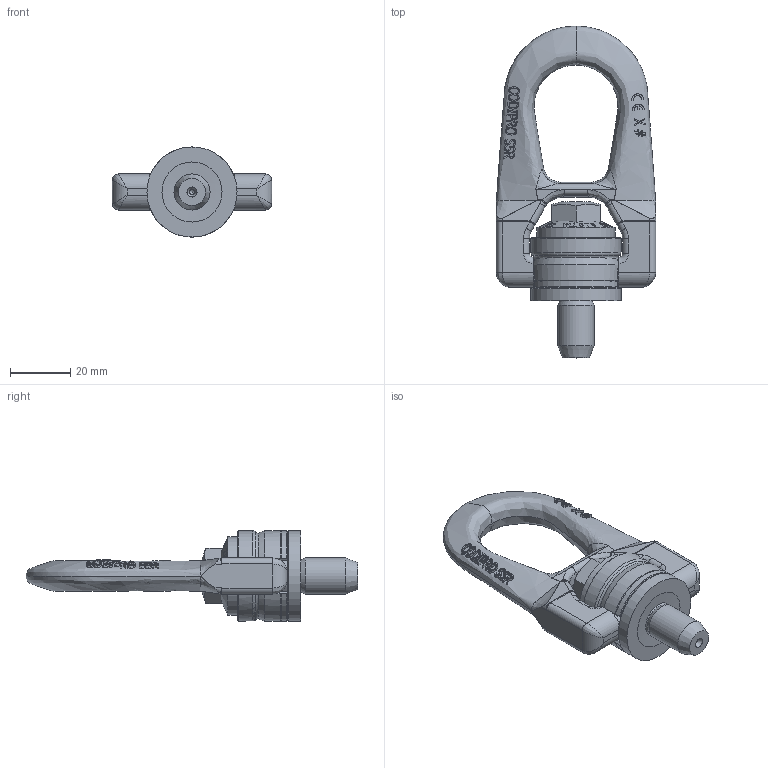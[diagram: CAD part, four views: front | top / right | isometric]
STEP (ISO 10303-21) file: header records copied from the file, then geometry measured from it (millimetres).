
FILE_DESCRIPTION(/* description */ (''),/* implementation_level */ '2;1');
FILE_NAME(/* name */ 'W:\CODIPRO\DOCUMENTS\Plans A NE PAS DIFFUSER !!!\Fichiers STEP\Gamme 2018\Produits NON GRADUP\SS DSR\SS DSR M12.stp',/* time_stamp */ '2017-09-26T13:05:57+02:00',/* author */ ('rklenes'),/* organization */ (''),/* preprocessor_version */ 'ST-DEVELOPER v16.5',/* originating_system */ 'Autodesk Inventor 2017',/* authorisation */ '');
FILE_SCHEMA (('AUTOMOTIVE_DESIGN { 1 0 10303 214 3 1 1 }'));
Products named in the file (5): SS DSR M12; SSM_AF1B-1; SSB_B1B; DRA_M12X42; DRE_D1M12A
Assembly tree (4 placements, depth 2):
  SS DSR M12
    SSM_AF1B-1
    SSB_B1B
    DRA_M12X42
    DRE_D1M12A
Bounding box: 53 x 110.5 x 30 mm (x, y, z)
Volume: 40054.1 mm3; surface area: 18264.9 mm2
Topology: 4 solids, 4 shells, 715 faces, 1884 edges, 1209 vertices
Faces by surface type: plane 312, bspline 258, cylinder 82, cone 43, torus 19, sphere 1
Full cylindrical faces by diameter (mm): 1.6 x1, 10 x2, 12 x3, 12.2 x1, 14.7 x2, 15 x2, 22 x1, 26 x1, 30 x2
Entity records: 40558 total; most frequent: CARTESIAN_POINT 25054, ORIENTED_EDGE 3664, DIRECTION 2394, EDGE_CURVE 1832, VERTEX_POINT 1200, AXIS2_PLACEMENT_3D 853, EDGE_LOOP 796, FACE_OUTER_BOUND 715
